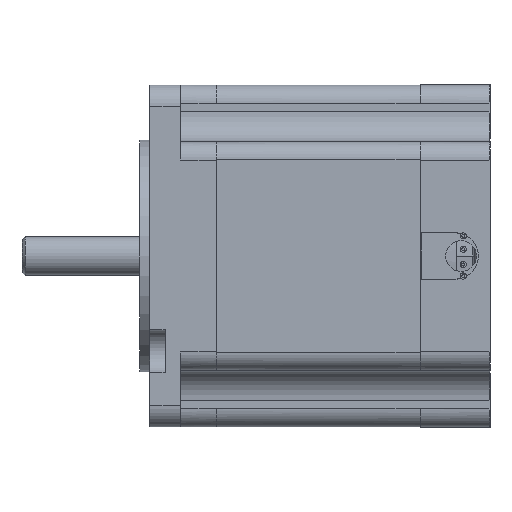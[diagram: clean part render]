
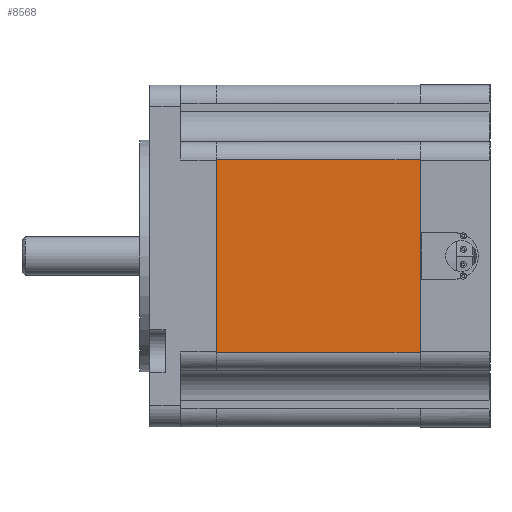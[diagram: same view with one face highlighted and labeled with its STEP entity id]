
A CAD part, front view. The second image highlights one B-rep face of the part: STEP entity #8568.
In plain terms, the highlighted planar face has unit normal (0, -1, 0).
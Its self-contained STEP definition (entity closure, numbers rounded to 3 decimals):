
#8451=CARTESIAN_POINT('',(11.,-28.1,-15.8));
#8452=VERTEX_POINT('',#8451);
#8504=CARTESIAN_POINT('',(44.5,-28.1,-15.8));
#8505=VERTEX_POINT('',#8504);
#8513=CARTESIAN_POINT('',(44.5,-28.1,-15.8));
#8514=DIRECTION('',(-1.,0.,0.));
#8515=VECTOR('',#8514,33.5);
#8516=LINE('',#8513,#8515);
#8517=EDGE_CURVE('',#8505,#8452,#8516,.T.);
#8522=CARTESIAN_POINT('',(27.75,-28.1,0.));
#8523=DIRECTION('',(0.,0.,-1.));
#8524=DIRECTION('',(0.,-1.,0.));
#8525=AXIS2_PLACEMENT_3D('',#8522,#8524,#8523);
#8526=PLANE('',#8525);
#8527=CARTESIAN_POINT('',(11.,-28.1,15.8));
#8528=VERTEX_POINT('',#8527);
#8529=CARTESIAN_POINT('',(11.,-28.1,15.8));
#8530=DIRECTION('',(0.,0.,-1.));
#8531=VECTOR('',#8530,31.6);
#8532=LINE('',#8529,#8531);
#8533=EDGE_CURVE('',#8528,#8452,#8532,.T.);
#8534=ORIENTED_EDGE('E803',*,*,#8533,.T.);
#8535=ORIENTED_EDGE('E803',*,*,#8517,.F.);
#8536=CARTESIAN_POINT('',(44.5,-28.1,-3.81));
#8537=VERTEX_POINT('',#8536);
#8538=CARTESIAN_POINT('',(44.5,-28.1,-15.8));
#8539=DIRECTION('',(0.,0.,1.));
#8540=VECTOR('',#8539,11.99);
#8541=LINE('',#8538,#8540);
#8542=EDGE_CURVE('',#8505,#8537,#8541,.T.);
#8543=ORIENTED_EDGE('E804',*,*,#8542,.T.);
#8544=CARTESIAN_POINT('',(44.5,-28.1,3.81));
#8545=VERTEX_POINT('',#8544);
#8546=CARTESIAN_POINT('',(44.5,-28.1,-3.81));
#8547=DIRECTION('',(0.,0.,1.));
#8548=VECTOR('',#8547,7.62);
#8549=LINE('',#8546,#8548);
#8550=EDGE_CURVE('',#8537,#8545,#8549,.T.);
#8551=ORIENTED_EDGE('E805',*,*,#8550,.T.);
#8552=CARTESIAN_POINT('',(44.5,-28.1,15.8));
#8553=VERTEX_POINT('',#8552);
#8554=CARTESIAN_POINT('',(44.5,-28.1,3.81));
#8555=DIRECTION('',(0.,0.,1.));
#8556=VECTOR('',#8555,11.99);
#8557=LINE('',#8554,#8556);
#8558=EDGE_CURVE('',#8545,#8553,#8557,.T.);
#8559=ORIENTED_EDGE('E806',*,*,#8558,.T.);
#8560=CARTESIAN_POINT('',(44.5,-28.1,15.8));
#8561=DIRECTION('',(-1.,0.,0.));
#8562=VECTOR('',#8561,33.5);
#8563=LINE('',#8560,#8562);
#8564=EDGE_CURVE('',#8553,#8528,#8563,.T.);
#8565=ORIENTED_EDGE('E807',*,*,#8564,.T.);
#8566=EDGE_LOOP('',(#8534,#8535,#8543,#8551,#8559,#8565));
#8567=FACE_OUTER_BOUND('',#8566,.T.);
#8568=ADVANCED_FACE('F234',(#8567),#8526,.T.);
